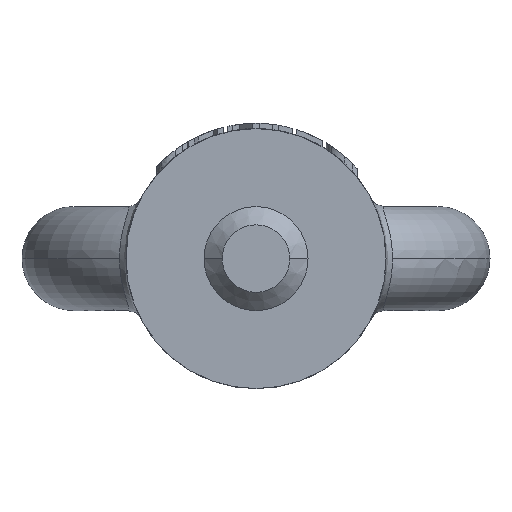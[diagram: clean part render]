
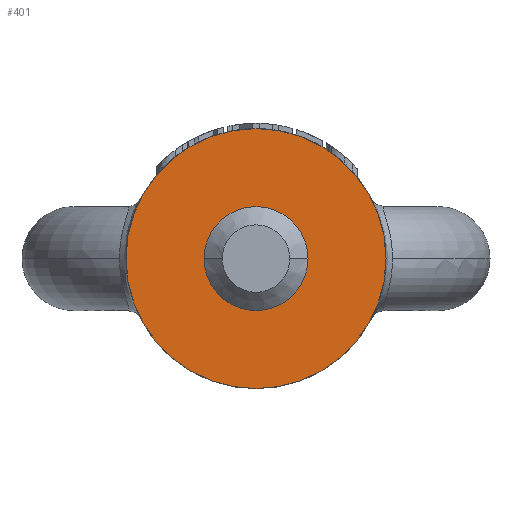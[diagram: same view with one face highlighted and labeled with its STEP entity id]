
A CAD part, front view. The second image highlights one B-rep face of the part: STEP entity #401.
In plain terms, the highlighted planar face has unit normal (0, -1, 0).
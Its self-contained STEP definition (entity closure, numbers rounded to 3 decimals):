
#401=ADVANCED_FACE('',(#807,#808),#809,.F.);
#807=FACE_OUTER_BOUND('',#1808,.T.);
#808=FACE_BOUND('',#1809,.T.);
#809=PLANE('',#1810);
#1808=EDGE_LOOP('',(#2836,#2837));
#1809=EDGE_LOOP('',(#2838,#2839));
#1810=AXIS2_PLACEMENT_3D('',#2840,#2841,#2842);
#2836=ORIENTED_EDGE('',*,*,#2891,.T.);
#2837=ORIENTED_EDGE('',*,*,#2968,.T.);
#2838=ORIENTED_EDGE('',*,*,#2910,.T.);
#2839=ORIENTED_EDGE('',*,*,#2932,.T.);
#2840=CARTESIAN_POINT('',(0.,-45.0,0.0));
#2841=DIRECTION('',(0.0,1.0,0.0));
#2842=DIRECTION('',(1.0,0.0,-0.0));
#2891=EDGE_CURVE('',#3373,#3370,#3374,.T.);
#2910=EDGE_CURVE('',#3401,#3405,#3407,.T.);
#2932=EDGE_CURVE('',#3405,#3401,#3435,.T.);
#2968=EDGE_CURVE('',#3370,#3373,#3478,.T.);
#3370=VERTEX_POINT('',#4185);
#3373=VERTEX_POINT('',#4189);
#3374=CIRCLE('',#4190,25.0);
#3401=VERTEX_POINT('',#4246);
#3405=VERTEX_POINT('',#4251);
#3407=CIRCLE('',#4254,8.2);
#3435=CIRCLE('',#4288,8.2);
#3478=CIRCLE('',#4507,25.0);
#4185=CARTESIAN_POINT('',(25.0,-45.0,0.));
#4189=CARTESIAN_POINT('',(-25.0,-45.0,0.));
#4190=AXIS2_PLACEMENT_3D('',#5750,#5751,#5752);
#4246=CARTESIAN_POINT('',(-8.2,-45.0,0.0));
#4251=CARTESIAN_POINT('',(8.2,-45.0,0.));
#4254=AXIS2_PLACEMENT_3D('',#5780,#5781,#5782);
#4288=AXIS2_PLACEMENT_3D('',#5810,#5811,#5812);
#4507=AXIS2_PLACEMENT_3D('',#5846,#5847,#5848);
#5750=CARTESIAN_POINT('',(0.0,-45.0,0.0));
#5751=DIRECTION('',(0.0,-1.0,0.0));
#5752=DIRECTION('',(1.0,0.0,0.0));
#5780=CARTESIAN_POINT('',(0.0,-45.0,0.0));
#5781=DIRECTION('',(0.0,1.0,0.0));
#5782=DIRECTION('',(-1.0,0.0,0.0));
#5810=CARTESIAN_POINT('',(0.0,-45.0,0.0));
#5811=DIRECTION('',(0.0,1.0,0.0));
#5812=DIRECTION('',(-1.0,0.0,0.0));
#5846=CARTESIAN_POINT('',(0.0,-45.0,0.0));
#5847=DIRECTION('',(0.0,-1.0,0.0));
#5848=DIRECTION('',(1.0,0.0,0.0));
